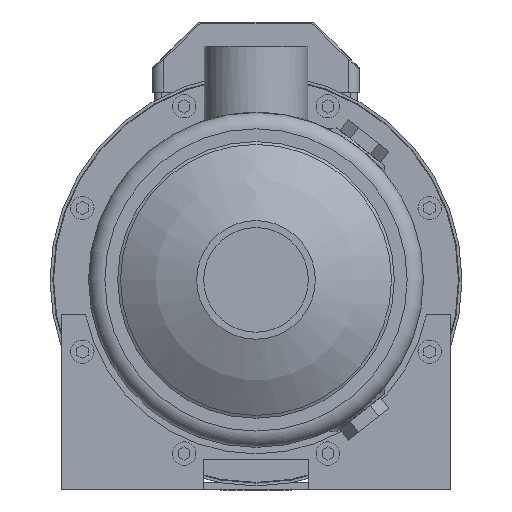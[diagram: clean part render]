
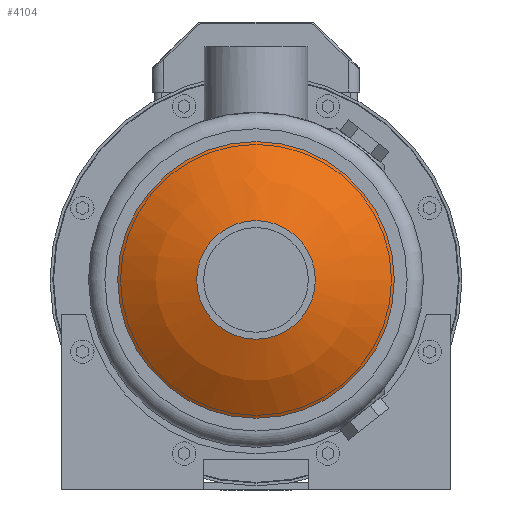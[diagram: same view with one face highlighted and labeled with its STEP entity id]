
A CAD part, left-side view. The second image highlights one B-rep face of the part: STEP entity #4104.
In plain terms, the highlighted spherical face has radius 100 mm.
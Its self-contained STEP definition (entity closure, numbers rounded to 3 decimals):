
#63=SPHERICAL_SURFACE('',#5494,100.);
#950=ORIENTED_EDGE('',*,*,#2059,.T.);
#951=ORIENTED_EDGE('',*,*,#2058,.F.);
#2058=EDGE_CURVE('',#2617,#2617,#3000,.T.);
#2059=EDGE_CURVE('',#2618,#2618,#3001,.T.);
#2617=VERTEX_POINT('',#7349);
#2618=VERTEX_POINT('',#7352);
#3000=CIRCLE('',#5493,25.4);
#3001=CIRCLE('',#5495,59.25);
#3186=EDGE_LOOP('',(#950));
#3187=EDGE_LOOP('',(#951));
#3571=FACE_BOUND('',#3186,.T.);
#3572=FACE_BOUND('',#3187,.T.);
#4104=ADVANCED_FACE('',(#3571,#3572),#63,.T.);
#5493=AXIS2_PLACEMENT_3D('',#7348,#5996,#5997);
#5494=AXIS2_PLACEMENT_3D('',#7350,#5998,#5999);
#5495=AXIS2_PLACEMENT_3D('',#7351,#6000,#6001);
#5996=DIRECTION('',(-1.,0.,0.));
#5997=DIRECTION('',(0.,0.,1.));
#5998=DIRECTION('',(-1.,0.,0.));
#5999=DIRECTION('',(0.,0.,1.));
#6000=DIRECTION('',(-1.,0.,0.));
#6001=DIRECTION('',(0.,0.,1.));
#7348=CARTESIAN_POINT('',(-52.02,0.,0.));
#7349=CARTESIAN_POINT('',(-52.02,0.,25.4));
#7350=CARTESIAN_POINT('',(44.7,0.,0.));
#7351=CARTESIAN_POINT('',(-35.857,0.,0.));
#7352=CARTESIAN_POINT('',(-35.857,0.,59.25));
